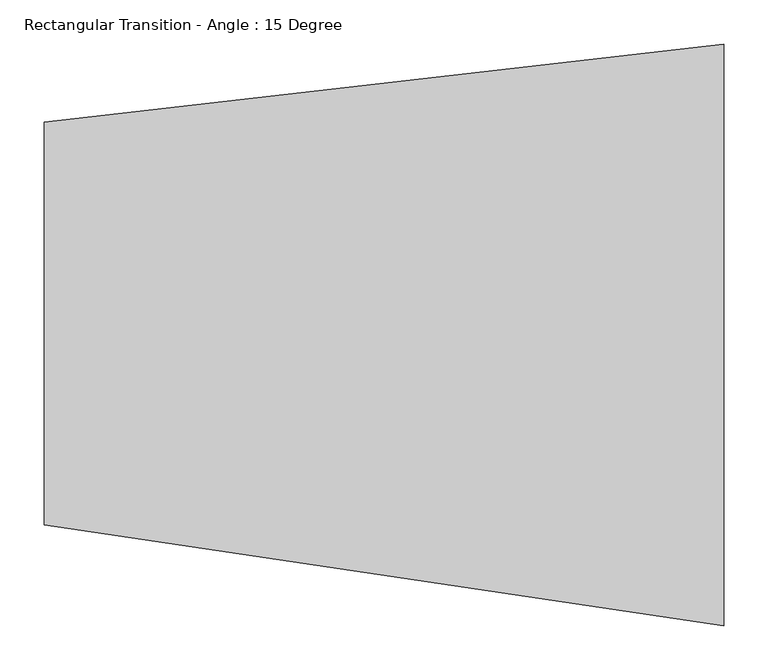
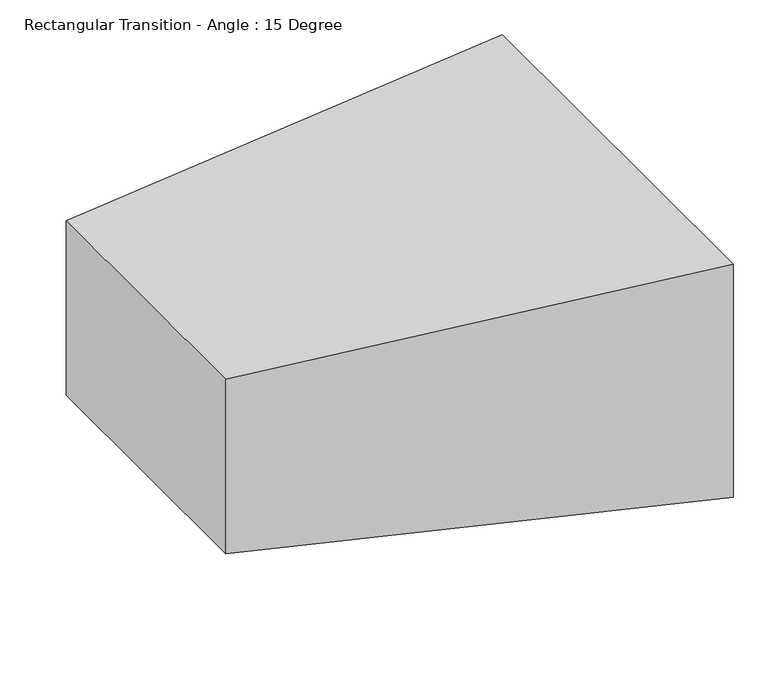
"""IFC4 building model written with IfcOpenShell, lengths in millimetres: duct fitting geometry, Rectangular Transition - Angle : 15 Degree."""

from ifc_helpers import new_model, si_unit, origin, place, context, project, spatial, faceted_brep, source, transform, mapped, element, save


def rectangular_transition_angle_15_degree_3f31a574(model_context):
    return source(origin(), model_context, "Body", "Brep", [
        faceted_brep([(771.5231265, -342.9, 152.4), (771.5231265, -342.9, -254.0), (771.5231265, 317.5, -254.0), (771.5231265, 317.5, 152.4), (0.0, -228.6, 152.4), (0.0, 228.6, 152.4), (0.0, 228.6, -152.4), (0.0, -228.6, -152.4)], [[[0, 1, 2, 3]], [[4, 5, 6, 7]], [[4, 7, 1, 0]], [[7, 6, 2, 1]], [[6, 5, 3, 2]], [[5, 4, 0, 3]]]),
    ])


if __name__ == "__main__":
    model = new_model("IFC4")
    model_context = context("Model", 3, world=origin())
    ifc_project = project(units=[si_unit("LENGTHUNIT", "METRE", prefix="MILLI")], contexts=[model_context])
    site = spatial("IfcSite", under=ifc_project)
    building = spatial("IfcBuilding", under=site)
    placement = place(None, origin())
    rectangular_transition_angle_15_degree_shape = rectangular_transition_angle_15_degree_3f31a574(model_context)
    element("IfcDuctFitting", 1, ObjectType="Rectangular Transition - Angle : 15 Degree", at=placement, inside=building, context=model_context, shape_type="MappedRepresentation", body=[
        mapped(rectangular_transition_angle_15_degree_shape, transform((0.0, 0.0, 0.0), x_axis=(1.0, 0.0, 0.0), y_axis=(0.0, 1.0, 0.0), z_axis=(0.0, 0.0, 1.0))),
    ])
    save(model, "model.ifc")
